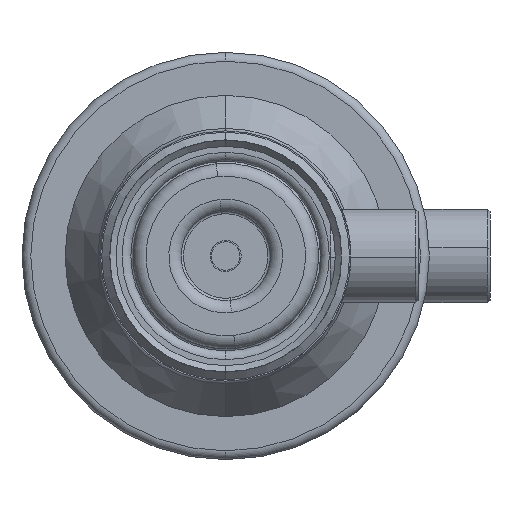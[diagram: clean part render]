
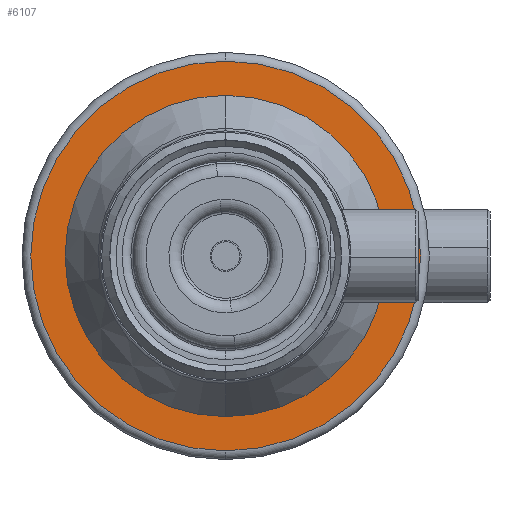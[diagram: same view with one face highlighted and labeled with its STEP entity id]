
A CAD part, front view. The second image highlights one B-rep face of the part: STEP entity #6107.
In plain terms, the highlighted planar face has unit normal (0, -1, 0).
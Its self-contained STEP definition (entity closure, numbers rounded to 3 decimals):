
#558 = EDGE_LOOP ( 'NONE', ( #9447, #2867 ) ) ;
#593 = DIRECTION ( 'NONE',  ( 0., 0., -1. ) ) ;
#922 = CARTESIAN_POINT ( 'NONE',  ( -26.7, 3., 0. ) ) ;
#1030 = CIRCLE ( 'NONE', #19521, 26.7 ) ;
#1252 = FACE_BOUND ( 'NONE', #558, .T. ) ;
#1988 = AXIS2_PLACEMENT_3D ( 'NONE', #10176, #17905, #17837 ) ;
#2369 = CARTESIAN_POINT ( 'NONE',  ( 0., 3., 0. ) ) ;
#2858 = VERTEX_POINT ( 'NONE', #5897 ) ;
#2867 = ORIENTED_EDGE ( 'NONE', *, *, #10356, .F. ) ;
#3036 = AXIS2_PLACEMENT_3D ( 'NONE', #10027, #16397, #593 ) ;
#3808 = DIRECTION ( 'NONE',  ( 0., 0., -1. ) ) ;
#4583 = CARTESIAN_POINT ( 'NONE',  ( 0., 3., -37.6 ) ) ;
#4698 = CIRCLE ( 'NONE', #3036, 26.7 ) ;
#5749 = DIRECTION ( 'NONE',  ( 0., 1., 0. ) ) ;
#5814 = CARTESIAN_POINT ( 'NONE',  ( 0., 3., -26.7 ) ) ;
#5897 = CARTESIAN_POINT ( 'NONE',  ( 0., 3., 26.7 ) ) ;
#6107 = ADVANCED_FACE ( 'NONE', ( #1252, #7685 ), #18256, .F. ) ;
#6958 = DIRECTION ( 'NONE',  ( 0., -1., 0. ) ) ;
#7685 = FACE_OUTER_BOUND ( 'NONE', #8879, .T. ) ;
#8050 = VERTEX_POINT ( 'NONE', #5814 ) ;
#8451 = DIRECTION ( 'NONE',  ( 0., 0., -1. ) ) ;
#8879 = EDGE_LOOP ( 'NONE', ( #12713, #16636 ) ) ;
#9216 = AXIS2_PLACEMENT_3D ( 'NONE', #2369, #6958, #3808 ) ;
#9447 = ORIENTED_EDGE ( 'NONE', *, *, #10422, .F. ) ;
#9603 = AXIS2_PLACEMENT_3D ( 'NONE', #922, #5749, #10304 ) ;
#10027 = CARTESIAN_POINT ( 'NONE',  ( 0., 3., 0. ) ) ;
#10176 = CARTESIAN_POINT ( 'NONE',  ( 0., 3., 0. ) ) ;
#10304 = DIRECTION ( 'NONE',  ( 0., 0., 1. ) ) ;
#10356 = EDGE_CURVE ( 'NONE', #2858, #8050, #1030, .T. ) ;
#10416 = EDGE_CURVE ( 'NONE', #15169, #14322, #13078, .T. ) ;
#10422 = EDGE_CURVE ( 'NONE', #8050, #2858, #4698, .T. ) ;
#11532 = DIRECTION ( 'NONE',  ( 0., -1., 0. ) ) ;
#12713 = ORIENTED_EDGE ( 'NONE', *, *, #10416, .T. ) ;
#13078 = CIRCLE ( 'NONE', #1988, 37.6 ) ;
#14322 = VERTEX_POINT ( 'NONE', #14932 ) ;
#14932 = CARTESIAN_POINT ( 'NONE',  ( 0., 3., 37.6 ) ) ;
#15169 = VERTEX_POINT ( 'NONE', #4583 ) ;
#16397 = DIRECTION ( 'NONE',  ( 0., -1., 0. ) ) ;
#16636 = ORIENTED_EDGE ( 'NONE', *, *, #17806, .T. ) ;
#16852 = CIRCLE ( 'NONE', #9216, 37.6 ) ;
#17806 = EDGE_CURVE ( 'NONE', #14322, #15169, #16852, .T. ) ;
#17837 = DIRECTION ( 'NONE',  ( 0., 0., -1. ) ) ;
#17905 = DIRECTION ( 'NONE',  ( 0., -1., 0. ) ) ;
#18256 = PLANE ( 'NONE',  #9603 ) ;
#19496 = CARTESIAN_POINT ( 'NONE',  ( 0., 3., 0. ) ) ;
#19521 = AXIS2_PLACEMENT_3D ( 'NONE', #19496, #11532, #8451 ) ;
